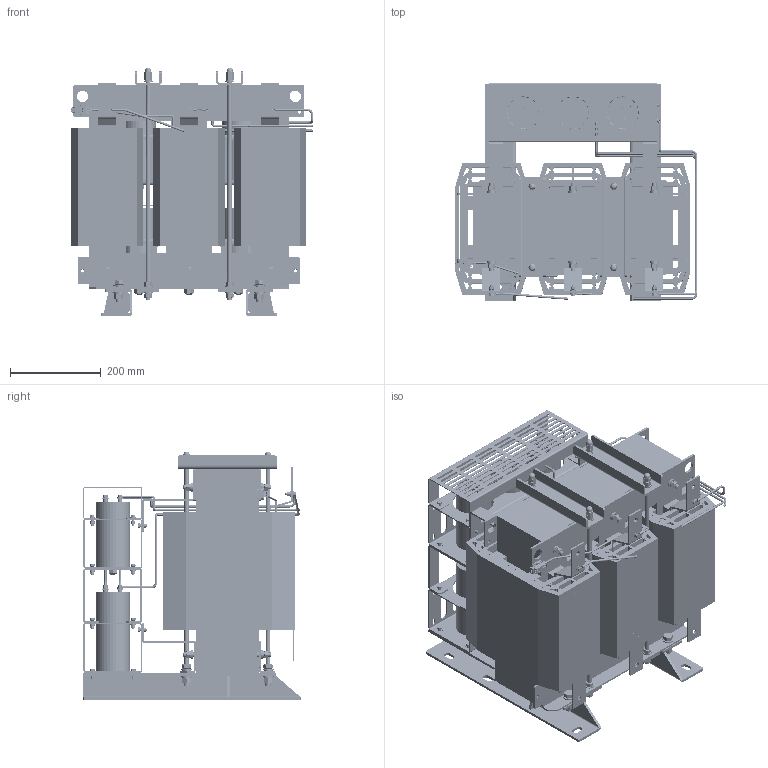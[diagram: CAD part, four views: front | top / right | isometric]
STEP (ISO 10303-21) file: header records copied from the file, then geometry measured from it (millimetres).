
FILE_DESCRIPTION(('STEP AP203'), '1');
FILE_NAME('蔓躅漤铋 耔眢耥 翳朦蝠 _ ISINOF-200_260-6', '', ('UNSPECIFIED'), ('UNSPECIFIED'), 'C3D Converter', 'C3D Toolkit', '');
FILE_SCHEMA(('CONFIG_CONTROL_DESIGN'));
Length unit declared in the file: millimetre
Products named in the file (11): ISINOF-200/260-6; 260A琵X2\04X0\X0\琵X2\04370457211604160447\X0\3D-РВ; 愧X2\0410\X0\誘ХЦ(1289); M6ЎБ20ВЭЛЁ; З豹X2\041F0412045804200458044E\X0\-440ЎБ70ЎБ35-4; ї琵X2\041E\X0\做зЧУKV223-2P; 琵X2\0428\X0\崤X2\043A\X0\-2.5捷; L1-L2-L3-180(1.8ｱｶЈｩ; L1''-L2''-L3''-180ЈЁ1.8±¶Ј©; ПЯИｦ-260A; 40ЎБ4ЎБ70НвДёЕЕ-Цｱ
Assembly tree (17 placements, depth 2):
  ISINOF-200/260-6
    260A琵X2\04X0\X0\琵X2\04370457211604160447\X0\3D-РВ
    愧X2\0410\X0\誘ХЦ(1289)
    M6ЎБ20ВЭЛЁ  x4
    З豹X2\041F0412045804200458044E\X0\-440ЎБ70ЎБ35-4
    ї琵X2\041E\X0\做зЧУKV223-2P
    琵X2\0428\X0\崤X2\043A\X0\-2.5捷
    L1-L2-L3-180(1.8ｱｶЈｩ
    L1''-L2''-L3''-180ЈЁ1.8±¶Ј©
    ПЯИｦ-260A  x3
    40ЎБ4ЎБ70НвДёЕЕ-Цｱ  x3
Bounding box: 535.05 x 480 x 547.63 mm (x, y, z)
Volume: 46314128.4 mm3; surface area: 7811068.1 mm2
Topology: 418 solids, 421 shells, 5889 faces, 14064 edges, 9121 vertices
Faces by surface type: plane 3370, cylinder 1550, cone 576, bspline 347, torus 46
Full cylindrical faces by diameter (mm): 2 x12, 3 x4, 3.8 x2, 4 x8, 5 x37, 5.053 x15, 5.2 x4, 6 x41, 6.4 x28, 6.45 x15, 6.5 x52, 7 x3, 8 x7, 8.422 x28, 9 x4, 9.55 x15, 10 x22, 10.106 x10, 10.75 x20, 10.833 x36, 11 x8, 12 x74, 12.9 x4, 13 x14, 14 x5, 15.917 x20, 19.1 x4, 20 x36, 22.75 x1, 23.75 x1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
Entity records: 253233 total; most frequent: CARTESIAN_POINT 97752, ORIENTED_EDGE 22214, DIRECTION 21641, EDGE_CURVE 11108, AXIS2_PLACEMENT_3D 8188, VERTEX_POINT 7749, EDGE_LOOP 6758, FACE_BOUND 5530
